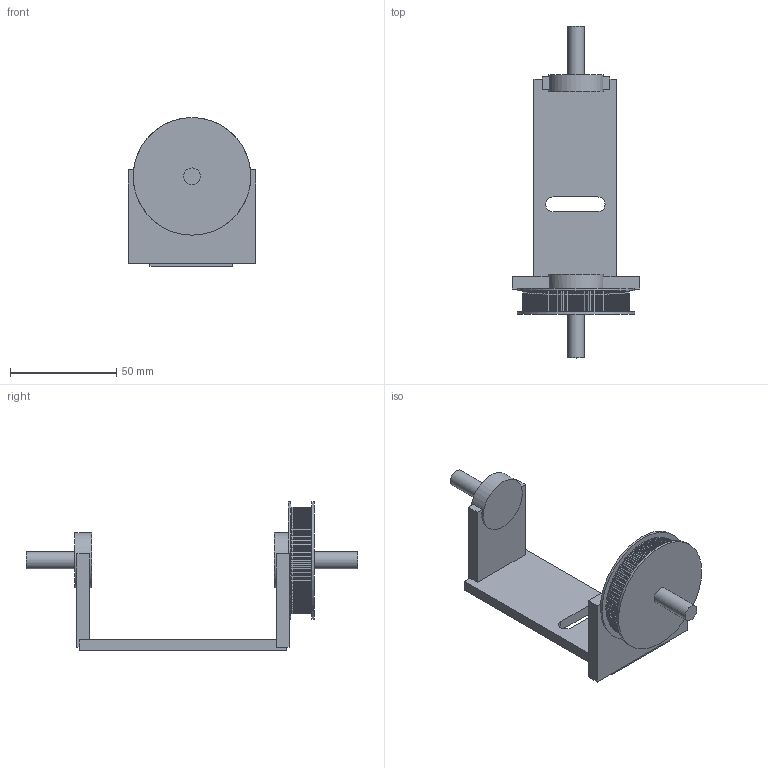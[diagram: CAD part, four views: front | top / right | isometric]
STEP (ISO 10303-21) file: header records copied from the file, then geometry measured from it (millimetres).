
FILE_DESCRIPTION(('FreeCAD Model'),'2;1');
FILE_NAME('Open CASCADE Shape Model','2026-08-28T20:43:36',('Author'),( ''),'Open CASCADE STEP processor 7.8','FreeCAD','Unknown');
FILE_SCHEMA(('AUTOMOTIVE_DESIGN { 1 0 10303 214 1 1 1 1 }'));
Length unit declared in the file: millimetre
Products named in the file (1): TILT_ROTATING_one_piece_cradle_trunnions_80T
Bounding box: 60 x 156.5 x 70.21 mm (x, y, z)
Volume: 71435.3 mm3; surface area: 25385.7 mm2
Topology: 1 solids, 1 shells, 519 faces, 1538 edges, 1026 vertices
Faces by surface type: cylinder 408, plane 111
Full cylindrical faces by diameter (mm): 7.9 x2, 26 x2, 55.422 x2
Entity records: 17826 total; most frequent: DIRECTION 3402, CARTESIAN_POINT 3084, ORIENTED_EDGE 3076, EDGE_CURVE 1538, AXIS2_PLACEMENT_3D 1344, VERTEX_POINT 1026, CIRCLE 824, LINE 714
